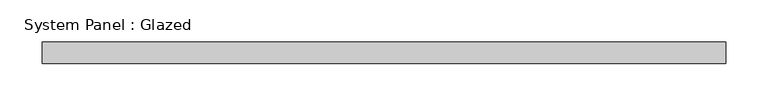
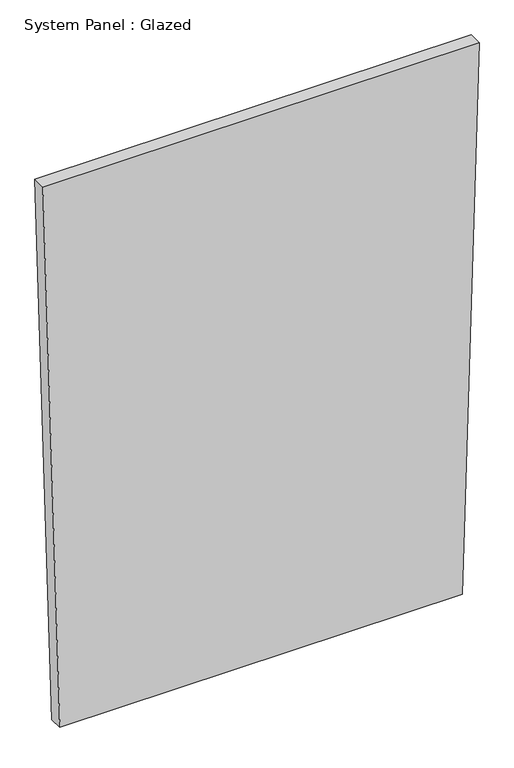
"""IFC4 building model written with IfcOpenShell, lengths in millimetres: plate geometry, System Panel : Glazed."""

from ifc_helpers import new_model, si_unit, frame, origin, place, context, project, spatial, polyline, outline, extrude, source, transform, mapped, element, save


def system_panel_glazed_b00dac85(model_context):
    return source(origin(), model_context, "Body", "SweptSolid", [
        extrude(outline(polyline([(0.0, -371.6064343), (0.0, 371.6064343), (1066.3391375, 402.9606029), (1066.3391375, -402.9606029), (0.0, -371.6064343)])), frame((0.0, -44.45, 0.0), z_axis=(0.0, 1.0, 0.0), x_axis=(0.0, 0.0, 1.0)), (0.0, 0.0, 1.0), 25.4),
    ])


if __name__ == "__main__":
    model = new_model("IFC4")
    model_context = context("Model", 3, world=origin())
    ifc_project = project(units=[si_unit("LENGTHUNIT", "METRE", prefix="MILLI")], contexts=[model_context])
    site = spatial("IfcSite", under=ifc_project)
    building = spatial("IfcBuilding", under=site)
    placement = place(None, origin())
    system_panel_glazed_shape = system_panel_glazed_b00dac85(model_context)
    element("IfcPlate", 1, ObjectType="System Panel : Glazed", at=placement, inside=building, context=model_context, shape_type="MappedRepresentation", body=[
        mapped(system_panel_glazed_shape, transform((0.0, 0.0, 0.0), x_axis=(1.0, 0.0, 0.0), y_axis=(0.0, 1.0, 0.0), z_axis=(0.0, 0.0, 1.0))),
    ])
    save(model, "model.ifc")
